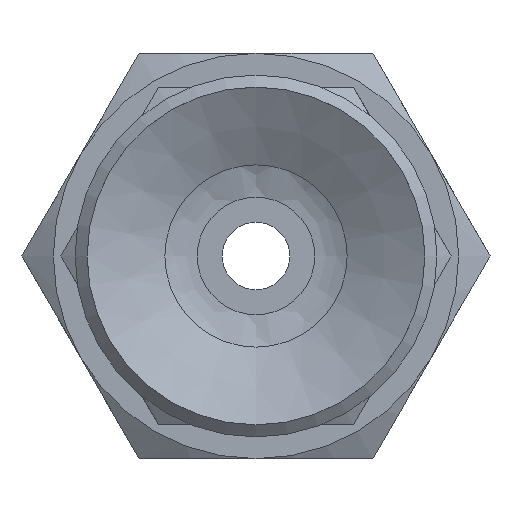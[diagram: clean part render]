
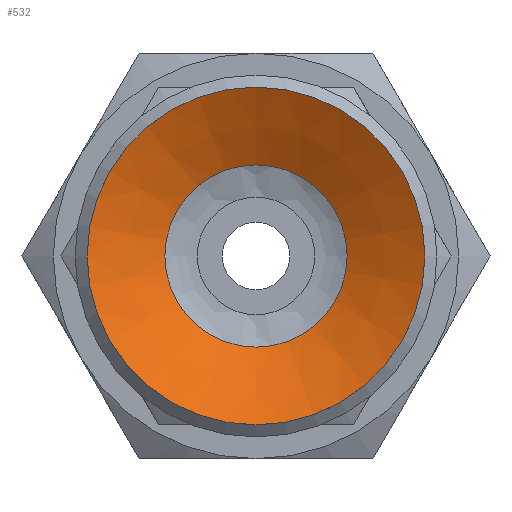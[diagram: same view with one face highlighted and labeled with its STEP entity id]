
A CAD part, front view. The second image highlights one B-rep face of the part: STEP entity #532.
In plain terms, the highlighted conical face has half-angle 61.39 degrees and reference radius 2.25 mm.
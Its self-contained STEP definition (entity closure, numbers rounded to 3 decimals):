
#532=ADVANCED_FACE('',(#756,#757),#758,.F.);
#756=FACE_BOUND('',#1035,.T.);
#757=FACE_OUTER_BOUND('',#1036,.T.);
#758=CONICAL_SURFACE('',#1037,2.25,1.071);
#1035=EDGE_LOOP('',(#1651));
#1036=EDGE_LOOP('',(#1652));
#1037=AXIS2_PLACEMENT_3D('',#1653,#1654,#1655);
#1651=ORIENTED_EDGE('',*,*,#1961,.T.);
#1652=ORIENTED_EDGE('',*,*,#1962,.T.);
#1653=CARTESIAN_POINT('',(0.0,1.5,0.0));
#1654=DIRECTION('',(-0.0,-1.0,0.));
#1655=DIRECTION('',(0.0,0.,-1.0));
#1961=EDGE_CURVE('',#2231,#2231,#2232,.T.);
#1962=EDGE_CURVE('',#2233,#2233,#2234,.T.);
#2231=VERTEX_POINT('',#2843);
#2232=CIRCLE('',#2844,2.698);
#2233=VERTEX_POINT('',#2845);
#2234=CIRCLE('',#2846,5.);
#2843=CARTESIAN_POINT('',(0.0,1.256,-2.698));
#2844=AXIS2_PLACEMENT_3D('',#3151,#3152,#3153);
#2845=CARTESIAN_POINT('',(0.0,0.,-5.));
#2846=AXIS2_PLACEMENT_3D('',#3154,#3155,#3156);
#3151=CARTESIAN_POINT('',(0.0,1.256,0.0));
#3152=DIRECTION('',(0.0,1.0,0.));
#3153=DIRECTION('',(0.0,0.,-1.0));
#3154=CARTESIAN_POINT('',(0.0,0.0,0.0));
#3155=DIRECTION('',(0.0,-1.0,0.));
#3156=DIRECTION('',(0.0,0.,-1.0));
